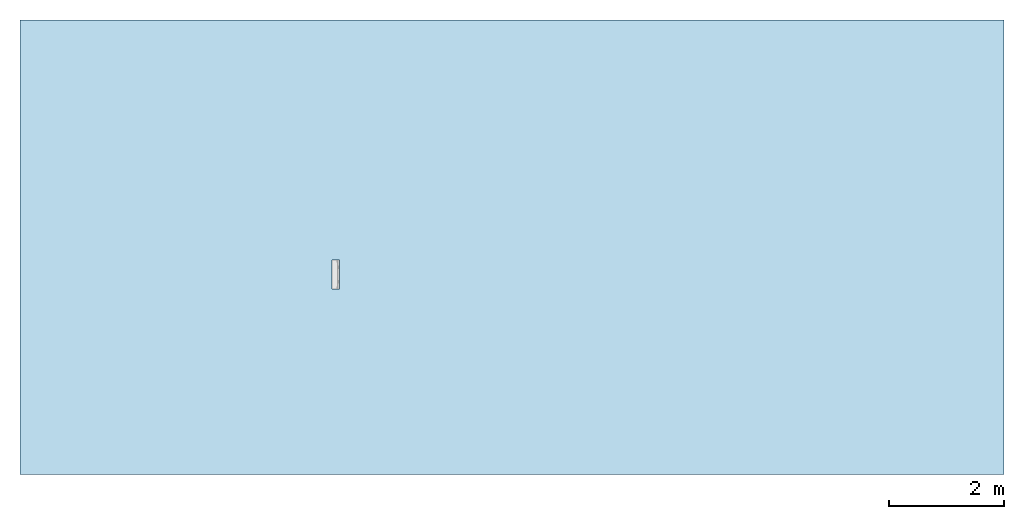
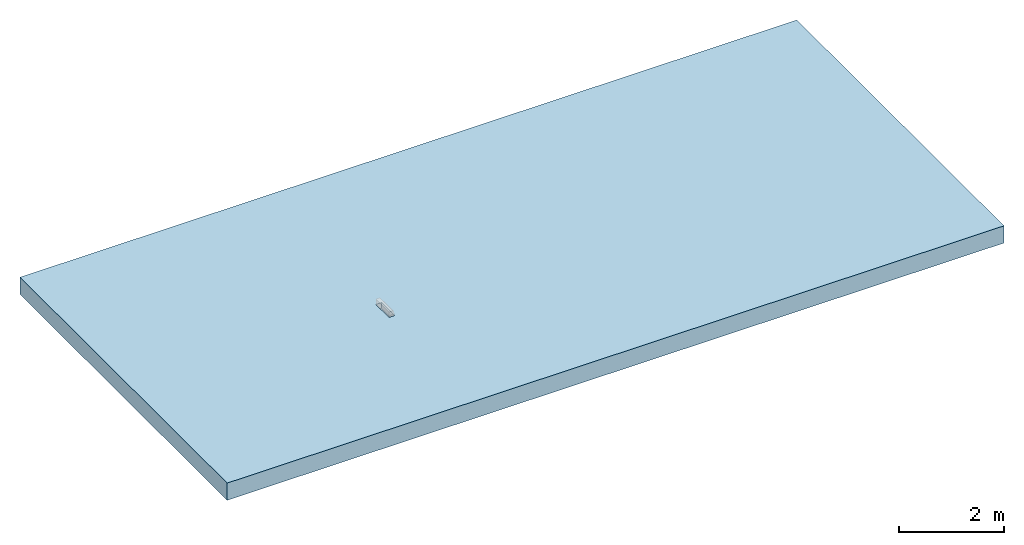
# One storey, part 1 of 2: 1 slab, 3 openings.
"""IFC2X3 building model written with IfcOpenShell, lengths in millimetres."""

from ifc_helpers import new_model, entity, si_unit, converted_unit, direction, frame, frame_2d, origin, origin_2d_with_axis, place, context, subcontext, project, spatial, rectangle, extrude, material, layer, layer_set, layer_usage, element, save


model = new_model("IFC2X3")

# Units and contexts
model_context = context("Model", 3, precision=1e-06, world=origin(), true_north=direction((2.0, 6.12303176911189e-17, 1.0)))
context_of_model = context(None, 3, precision=1e-06, world=origin(), true_north=direction((2.0, 6.12303176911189e-17, 1.0)))
body_context = subcontext(model_context, "Body", "Model", "MODEL_VIEW")
ifc_project = project(units=[si_unit("LENGTHUNIT", "METRE", prefix="MILLI"), si_unit("AREAUNIT", "SQUARE_METRE", prefix="MILLI"), si_unit("VOLUMEUNIT", "CUBIC_METRE", prefix="MILLI"), converted_unit("PLANEANGLEUNIT", "DEGREE", entity("IfcRatioMeasure", 0.0174532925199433), si_unit("PLANEANGLEUNIT", "RADIAN"), dimensions=[0, 0, 0, 0, 0, 0, 0]), si_unit("TIMEUNIT", "SECOND")], contexts=[model_context, context_of_model])

# Site, building, storey
site_placement = place(None, origin())
site = spatial("IfcSite", under=ifc_project, at=site_placement, Name="Default", CompositionType="ELEMENT")
building_placement = place(site_placement, origin())
building = spatial("IfcBuilding", under=site, at=building_placement, CompositionType="ELEMENT")
storey_placement = place(building_placement, origin())
storey = spatial("IfcBuildingStorey", under=building, at=storey_placement, Name="Level 1", CompositionType="ELEMENT", Elevation=0.0)

# Slab, openings
ifc_material = material(Name="Plant")
ifc_layer = layer(ifc_material, 400.0)
ifc_layer_set = layer_set([ifc_layer], Name="Floor:Generic Floor - 400mm")
ifc_layer_usage = layer_usage(ifc_layer_set, "AXIS3", "POSITIVE", 0.0)
slab_placement = place(storey_placement, origin())
slab = element("IfcSlab", 1, at=slab_placement, inside=storey, material=ifc_layer_usage, Name="Floor:Generic Floor - 400mm", ObjectType="Floor:Generic Floor - 400mm", PredefinedType="FLOOR", context=body_context, shape_type="SweptSolid", body=[
    extrude(rectangle(XDim=7900.0, YDim=17100.0, at=frame_2d((0.0, 0.0), x_axis=(0.0, -1.0))), frame((-8097.86261836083, 1059.07636553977, 0.0), z_axis=(0.0, 0.0, -1.0), x_axis=(-1.0, 0.0, 0.0)), (0.0, 0.0, 1.0), 400.0),
])
opening_1_placement = place(slab_placement, origin())
element("IfcOpeningElement", 2, at=opening_1_placement, cuts=slab, ObjectType="Recess", context=body_context, shape_type="SweptSolid", body=[
    extrude(rectangle(XDim=280.350941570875, YDim=25.5515234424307, at=origin_2d_with_axis()), frame((-11236.6900252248, 586.058372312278, -1875.0), z_axis=(0.0, 0.0, 1.0), x_axis=(0.0, -1.0, 0.0)), (0.0, 0.0, 1.0), 255.0),
])
opening_2_placement = place(slab_placement, origin())
element("IfcOpeningElement", 3, at=opening_2_placement, cuts=slab, ObjectType="Recess", context=body_context, shape_type="SweptSolid", body=[
    extrude(rectangle(XDim=1000.0, YDim=150.000000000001, at=origin_2d_with_axis()), frame((-11161.4142635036, 835.882901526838, -2005.0), z_axis=(0.0, 0.0, 1.0), x_axis=(0.0, -1.0, 0.0)), (0.0, 0.0, 1.0), 4.99999999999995),
])
opening_3_placement = place(slab_placement, origin())
element("IfcOpeningElement", 4, at=opening_3_placement, cuts=slab, ObjectType="Recess", context=body_context, shape_type="SweptSolid", body=[
    extrude(rectangle(XDim=125.0, YDim=500.0, at=origin_2d_with_axis()), frame((-11161.4142635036, 585.882901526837, -130.0), z_axis=(0.0, 0.0, 1.0), x_axis=(-1.0, 0.0, 0.0)), (0.0, 0.0, 1.0), 130.0),
])

save(model, "model.ifc")
